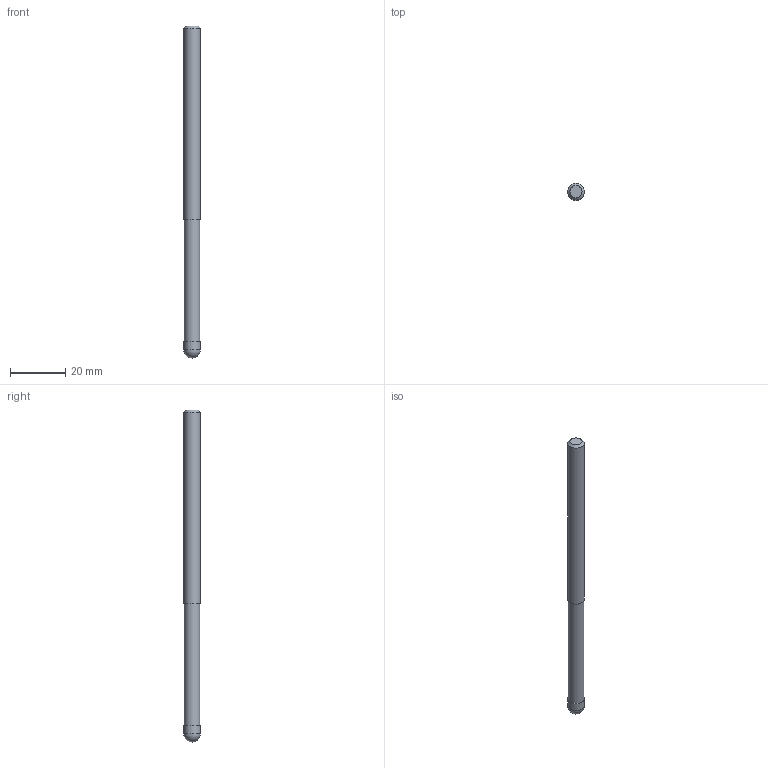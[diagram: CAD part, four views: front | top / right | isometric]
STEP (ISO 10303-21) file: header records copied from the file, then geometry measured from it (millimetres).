
FILE_DESCRIPTION((''),'2;1');
FILE_NAME('C:\Users\nsx150\AppData\Local\Temp\Mastercam 2021\ARV7HD45SN\TEMP.step','2023-06-13T16:39:55',(''),(''),'STEP Write','Mastercam 2021 ... CNC Software, Inc.','');
FILE_SCHEMA(('AUTOMOTIVE_DESIGN'));
Length unit declared in the file: millimetre
Products named in the file (1): None
Bounding box: 6 x 6 x 120 mm (x, y, z)
Volume: 3237.9 mm3; surface area: 2295.6 mm2
Topology: 2 solids, 2 shells, 9 faces, 13 edges, 8 vertices
Faces by surface type: plane 4, cylinder 3, sphere 1, cone 1
Full cylindrical faces by diameter (mm): 5.7 x1, 6 x2
Entity records: 211 total; most frequent: DIRECTION 36, CARTESIAN_POINT 25, AXIS2_PLACEMENT_3D 18, ORIENTED_EDGE 14, EDGE_LOOP 14, STYLED_ITEM 12, ADVANCED_FACE 9, FACE_BOUND 8
